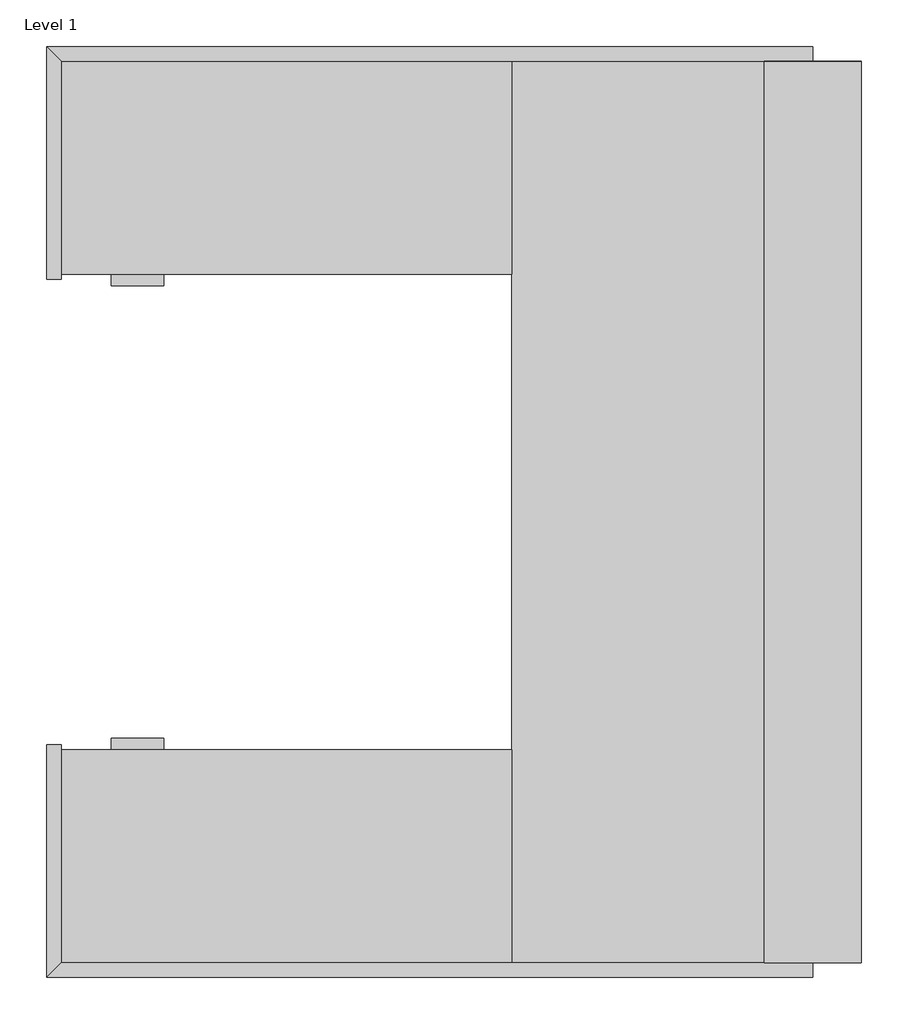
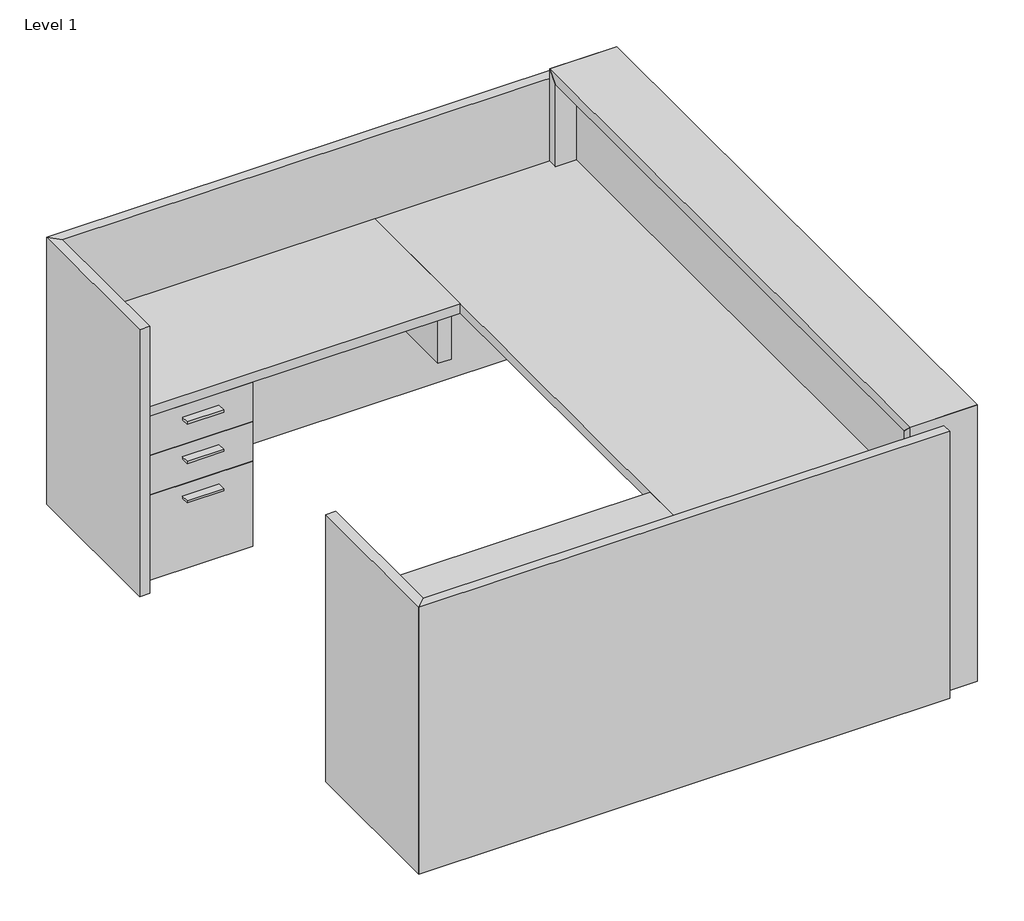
# One storey: 22 proxies.
"""IFC4 building model written with IfcOpenShell, lengths in millimetres."""

from ifc_helpers import new_model, si_unit, origin, place, context, project, spatial, transform, mapped, element, save
from components import generic_models_489af210, generic_models_81629c69, generic_models_e249cb2d, generic_models_01de08b3, generic_models_e0dffeda, generic_models_e0aebaa7, generic_models_29dc5ad5, generic_models_abc72f08, generic_models_19edf8a9, generic_models_948baabf, generic_models_fbad1f5f, cantilever_bracket_10x18x_5_fb91e7c7

model = new_model("IFC4")

# Units and contexts
model_context = context("Model", 3, world=origin())
ifc_project = project(units=[si_unit("LENGTHUNIT", "METRE", prefix="MILLI")], contexts=[model_context])

# Site, building, storey
site = spatial("IfcSite", under=ifc_project)
building = spatial("IfcBuilding", under=site)
storey = spatial("IfcBuildingStorey", under=building, Name="Level 1", Elevation=0.0)

# Proxies
placement = place(None, origin())
generic_models_shape = generic_models_489af210(model_context)
element("IfcBuildingElementProxy", 1, Name="FOUNDATION^OPEN OFFICE 1_42x79x24 LEFT GALLERY WALL-PARTS SOLID", ObjectType="FOUNDATION^OPEN OFFICE 1_42x79x24 LEFT GALLERY WALL-PARTS SOLID", at=placement, inside=storey, context=model_context, shape_type="MappedRepresentation", body=[
    mapped(generic_models_shape, transform((127.0, 0.0, 0.0), x_axis=(0.0, 1.0, 0.0), y_axis=(0.0, 0.0, 1.0), z_axis=(1.0, 0.0, 0.0))),
])
generic_models_2_shape = generic_models_81629c69(model_context)
element("IfcBuildingElementProxy", 2, Name="FOUNDATION^OPEN OFFICE 1_12.94x89.94-TACKBOARD", ObjectType="FOUNDATION^OPEN OFFICE 1_12.94x89.94-TACKBOARD", at=placement, inside=storey, context=model_context, shape_type="MappedRepresentation", body=[
    mapped(generic_models_2_shape, transform((79.375, -2323.30625, 737.39375), x_axis=(0.0, 1.0, 0.0), y_axis=(0.0, 0.0, 1.0), z_axis=(1.0, 0.0, 0.0))),
])
generic_models_3_shape = generic_models_e249cb2d(model_context)
element("IfcBuildingElementProxy", 3, Name="FOUNDATION^OPEN OFFICE 1_42x79x24 RIGHT GALLERY WALL-PARTS SOLID", ObjectType="FOUNDATION^OPEN OFFICE 1_42x79x24 RIGHT GALLERY WALL-PARTS SOLID", at=placement, inside=storey, context=model_context, shape_type="MappedRepresentation", body=[
    mapped(generic_models_3_shape, transform((127.0, -2400.3, 0.0), x_axis=(0.0, 1.0, 0.0), y_axis=(0.0, 0.0, 1.0), z_axis=(1.0, 0.0, 0.0))),
])
generic_models_4_shape = generic_models_01de08b3(model_context)
element("IfcBuildingElementProxy", 4, Name="FOUNDATION^WORKSURFACES_FIXED RETURN TOP-46.5x22", ObjectType="FOUNDATION^WORKSURFACES_FIXED RETURN TOP-46.5x22", at=placement, inside=storey, context=model_context, shape_type="MappedRepresentation", body=[
    mapped(generic_models_4_shape, transform((-1841.5, -558.8, 698.5), x_axis=(1.0, 0.0, 0.0), y_axis=(0.0, 0.0, 1.0), z_axis=(0.0, -1.0, 0.0))),
])
element("IfcBuildingElementProxy", 5, Name="FOUNDATION^WORKSURFACES_FIXED RETURN TOP-46.5x22", ObjectType="FOUNDATION^WORKSURFACES_FIXED RETURN TOP-46.5x22", at=placement, inside=storey, context=model_context, shape_type="MappedRepresentation", body=[
    mapped(generic_models_4_shape, transform((-660.4, -1803.4, 698.5), x_axis=(-1.0, 0.0, 0.0), y_axis=(0.0, 0.0, 1.0), z_axis=(0.0, 1.0, 0.0))),
])
generic_models_5_shape = generic_models_e0dffeda(model_context)
element("IfcBuildingElementProxy", 6, Name="FOUNDATION^WORKSURFACES_1x1 BLOCKING-20", ObjectType="FOUNDATION^WORKSURFACES_1x1 BLOCKING-20", at=placement, inside=storey, context=model_context, shape_type="MappedRepresentation", body=[
    mapped(generic_models_5_shape, transform((-584.2, -2336.8, 673.1), x_axis=(1.0, 0.0, 0.0), y_axis=(0.0, 0.0, 1.0), z_axis=(0.0, -1.0, 0.0))),
])
element("IfcBuildingElementProxy", 7, Name="FOUNDATION^WORKSURFACES_1x1 BLOCKING-20", ObjectType="FOUNDATION^WORKSURFACES_1x1 BLOCKING-20", at=placement, inside=storey, context=model_context, shape_type="MappedRepresentation", body=[
    mapped(generic_models_5_shape, transform((-1238.25, -2336.8, 673.1), x_axis=(1.0, 0.0, 0.0), y_axis=(0.0, 0.0, 1.0), z_axis=(0.0, -1.0, 0.0))),
])
element("IfcBuildingElementProxy", 8, Name="FOUNDATION^WORKSURFACES_1x1 BLOCKING-20", ObjectType="FOUNDATION^WORKSURFACES_1x1 BLOCKING-20", at=placement, inside=storey, context=model_context, shape_type="MappedRepresentation", body=[
    mapped(generic_models_5_shape, transform((-1238.25, 0.0, 673.1), x_axis=(1.0, 0.0, 0.0), y_axis=(0.0, 0.0, 1.0), z_axis=(0.0, -1.0, 0.0))),
])
element("IfcBuildingElementProxy", 9, Name="FOUNDATION^WORKSURFACES_1x1 BLOCKING-20", ObjectType="FOUNDATION^WORKSURFACES_1x1 BLOCKING-20", at=placement, inside=storey, context=model_context, shape_type="MappedRepresentation", body=[
    mapped(generic_models_5_shape, transform((-584.2, 0.0, 673.1), x_axis=(1.0, 0.0, 0.0), y_axis=(0.0, 0.0, 1.0), z_axis=(0.0, -1.0, 0.0))),
])
generic_models_6_shape = generic_models_e0aebaa7(model_context)
element("IfcBuildingElementProxy", 10, Name="FOUNDATION^WORKSURFACES_1x1 BLOCKING-32", ObjectType="FOUNDATION^WORKSURFACES_1x1 BLOCKING-32", at=placement, inside=storey, context=model_context, shape_type="MappedRepresentation", body=[
    mapped(generic_models_6_shape, transform((76.2, -2063.75, 673.1), x_axis=(0.0, 1.0, 0.0), y_axis=(0.0, 0.0, 1.0), z_axis=(1.0, 0.0, 0.0))),
])
element("IfcBuildingElementProxy", 11, Name="FOUNDATION^WORKSURFACES_1x1 BLOCKING-32", ObjectType="FOUNDATION^WORKSURFACES_1x1 BLOCKING-32", at=placement, inside=storey, context=model_context, shape_type="MappedRepresentation", body=[
    mapped(generic_models_6_shape, transform((76.2, -1111.25, 673.1), x_axis=(0.0, 1.0, 0.0), y_axis=(0.0, 0.0, 1.0), z_axis=(1.0, 0.0, 0.0))),
])
generic_models_7_shape = generic_models_29dc5ad5(model_context)
element("IfcBuildingElementProxy", 12, Name="FOUNDATION^PEDESTAL_PLINTH-14.25x19.63", ObjectType="FOUNDATION^PEDESTAL_PLINTH-14.25x19.63", at=placement, inside=storey, context=model_context, shape_type="MappedRepresentation", body=[
    mapped(generic_models_7_shape, transform((-1841.5, -498.475, 0.0), x_axis=(1.0, 0.0, 0.0), y_axis=(0.0, 0.0, 1.0), z_axis=(0.0, -1.0, 0.0))),
])
element("IfcBuildingElementProxy", 13, Name="FOUNDATION^PEDESTAL_PLINTH-14.25x19.63", ObjectType="FOUNDATION^PEDESTAL_PLINTH-14.25x19.63", at=placement, inside=storey, context=model_context, shape_type="MappedRepresentation", body=[
    mapped(generic_models_7_shape, transform((-1841.5, -2362.2, 0.0), x_axis=(1.0, 0.0, 0.0), y_axis=(0.0, 0.0, 1.0), z_axis=(0.0, -1.0, 0.0))),
])
generic_models_8_shape = generic_models_abc72f08(model_context)
element("IfcBuildingElementProxy", 14, Name="FOUNDATION^PEDESTAL_LETTER BBF 22D-SOLID ASSEMBLY", ObjectType="FOUNDATION^PEDESTAL_LETTER BBF 22D-SOLID ASSEMBLY", at=placement, inside=storey, context=model_context, shape_type="MappedRepresentation", body=[
    mapped(generic_models_8_shape, transform((-1841.5, 0.0, 38.1), x_axis=(1.0, 0.0, 0.0), y_axis=(0.0, 0.0, 1.0), z_axis=(0.0, -1.0, 0.0))),
])
generic_models_9_shape = generic_models_19edf8a9(model_context)
element("IfcBuildingElementProxy", 15, Name="FOUNDATION^OPEN OFFICE 1_43.5x93 FRONT TRANSACTION-PARTS SOLID", ObjectType="FOUNDATION^OPEN OFFICE 1_43.5x93 FRONT TRANSACTION-PARTS SOLID", at=placement, inside=storey, context=model_context, shape_type="MappedRepresentation", body=[
    mapped(generic_models_9_shape, transform((0.0, -2362.2, 0.0), x_axis=(0.0, 1.0, 0.0), y_axis=(0.0, 0.0, 1.0), z_axis=(1.0, 0.0, 0.0))),
])
generic_models_10_shape = generic_models_948baabf(model_context)
element("IfcBuildingElementProxy", 16, Name="FOUNDATION^PEDESTAL_LETTER FF 22D-SOLID ASSEMBLY", ObjectType="FOUNDATION^PEDESTAL_LETTER FF 22D-SOLID ASSEMBLY", at=placement, inside=storey, context=model_context, shape_type="MappedRepresentation", body=[
    mapped(generic_models_10_shape, transform((-1441.45, -2362.2, 38.1), x_axis=(-1.0, 0.0, 0.0), y_axis=(0.0, 0.0, 1.0), z_axis=(0.0, 1.0, 0.0))),
])
generic_models_11_shape = generic_models_fbad1f5f(model_context)
element("IfcBuildingElementProxy", 17, Name="FOUNDATION^WORKSURFACES_FIXED TOP-93x30", ObjectType="FOUNDATION^WORKSURFACES_FIXED TOP-93x30", at=placement, inside=storey, context=model_context, shape_type="MappedRepresentation", body=[
    mapped(generic_models_11_shape, transform((101.6, -2362.2, 698.5), x_axis=(0.0, 1.0, 0.0), y_axis=(0.0, 0.0, 1.0), z_axis=(1.0, 0.0, 0.0))),
])
cantilever_bracket_10x18x_5_shape = cantilever_bracket_10x18x_5_fb91e7c7(model_context)
element("IfcBuildingElementProxy", 18, Name="CANTILEVER BRACKET-10x18x.5", ObjectType="CANTILEVER BRACKET-10x18x.5", at=placement, inside=storey, context=model_context, shape_type="MappedRepresentation", body=[
    mapped(cantilever_bracket_10x18x_5_shape, transform((101.6, -254.0, 444.5), x_axis=(0.0, 1.0, 0.0), y_axis=(0.0, 0.0, 1.0), z_axis=(1.0, 0.0, 0.0))),
])
element("IfcBuildingElementProxy", 19, Name="CANTILEVER BRACKET-10x18x.5", ObjectType="CANTILEVER BRACKET-10x18x.5", at=placement, inside=storey, context=model_context, shape_type="MappedRepresentation", body=[
    mapped(cantilever_bracket_10x18x_5_shape, transform((101.6, -1206.5, 444.5), x_axis=(0.0, 1.0, 0.0), y_axis=(0.0, 0.0, 1.0), z_axis=(1.0, 0.0, 0.0))),
])
element("IfcBuildingElementProxy", 20, Name="CANTILEVER BRACKET-10x18x.5", ObjectType="CANTILEVER BRACKET-10x18x.5", at=placement, inside=storey, context=model_context, shape_type="MappedRepresentation", body=[
    mapped(cantilever_bracket_10x18x_5_shape, transform((-685.8, -2362.2, 444.5), x_axis=(1.0, 0.0, 0.0), y_axis=(0.0, 0.0, 1.0), z_axis=(0.0, -1.0, 0.0))),
])
element("IfcBuildingElementProxy", 21, Name="CANTILEVER BRACKET-10x18x.5", ObjectType="CANTILEVER BRACKET-10x18x.5", at=placement, inside=storey, context=model_context, shape_type="MappedRepresentation", body=[
    mapped(cantilever_bracket_10x18x_5_shape, transform((-635.0, 0.0, 444.5), x_axis=(-1.0, 0.0, 0.0), y_axis=(0.0, 0.0, 1.0), z_axis=(0.0, 1.0, 0.0))),
])
element("IfcBuildingElementProxy", 22, Name="CANTILEVER BRACKET-10x18x.5", ObjectType="CANTILEVER BRACKET-10x18x.5", at=placement, inside=storey, context=model_context, shape_type="MappedRepresentation", body=[
    mapped(cantilever_bracket_10x18x_5_shape, transform((101.6, -2159.0, 444.5), x_axis=(0.0, 1.0, 0.0), y_axis=(0.0, 0.0, 1.0), z_axis=(1.0, 0.0, 0.0))),
])

save(model, "model.ifc")
